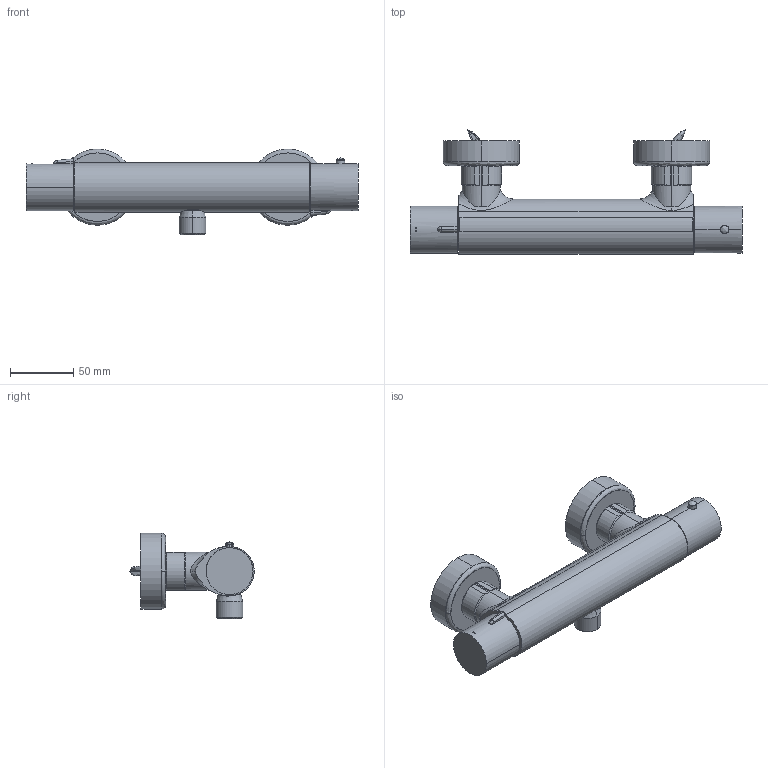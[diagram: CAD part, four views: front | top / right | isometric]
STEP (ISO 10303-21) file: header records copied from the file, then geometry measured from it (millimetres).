
FILE_DESCRIPTION (( 'STEP AP214' ), '1' );
FILE_NAME ('96206010 x architetti.STEP', '2024-09-13T11:55:39', ( '' ), ( '' ), 'SwSTEP 2.0', 'SolidWorks 2020', '' );
FILE_SCHEMA (( 'AUTOMOTIVE_DESIGN' ));
Length unit declared in the file: millimetre
Products named in the file (1): 96206010 x architetti
Bounding box: 261.73 x 98.18 x 67.66 mm (x, y, z)
Surface area: 84278.5 mm2 (no closed solid volume)
Topology: 0 solids, 26 shells, 445 faces, 1151 edges, 758 vertices
Faces by surface type: plane 183, cylinder 155, bspline 83, cone 24
Entity records: 34295 total; most frequent: CARTESIAN_POINT 19575, ORIENTED_EDGE 2276, DIRECTION 2029, EDGE_CURVE 1151, AXIS2_PLACEMENT_3D 823, VERTEX_POINT 758, EDGE_LOOP 487, CIRCLE 460
